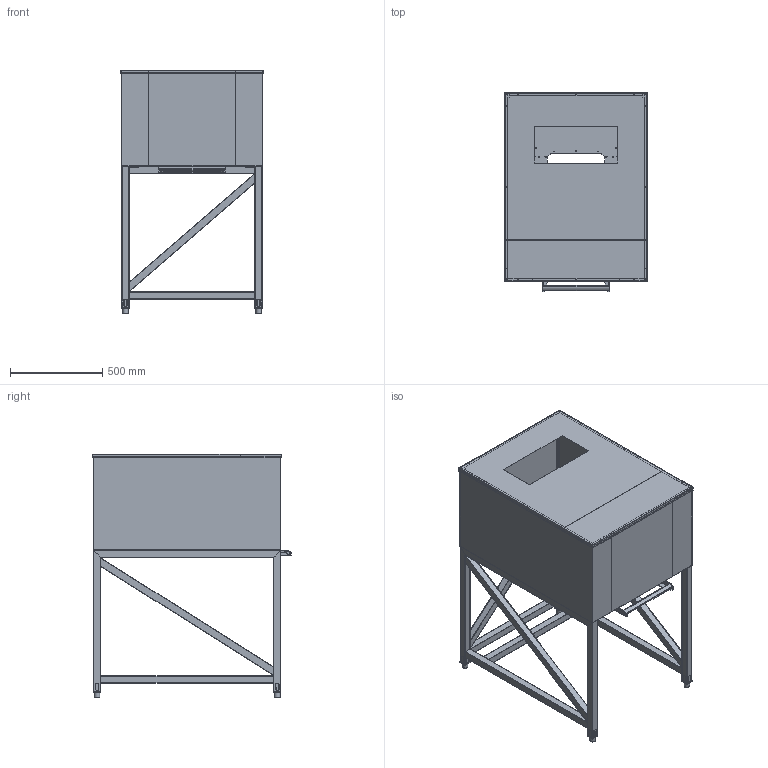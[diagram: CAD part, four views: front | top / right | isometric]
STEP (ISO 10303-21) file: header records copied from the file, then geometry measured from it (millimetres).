
FILE_DESCRIPTION(/* description */ ('Unknown'),/* implementation_level */ '2;1');
FILE_NAME(/* name */ 'SCS150',/* time_stamp */ '2018-04-24T10:45:41+02:00',/* author */ ('Unknown'),/* organization */ ('Unknown'),/* preprocessor_version */ 'ST-DEVELOPER v16.7',/* originating_system */ 'DEX',/* authorisation */ $);
FILE_SCHEMA (('CONFIG_CONTROL_DESIGN'));
Length unit declared in the file: millimetre
Products named in the file (32): SILO_SC1_Carro_sin_puerta; 42-92+SC1_Carro sin puerta_oa_0; 42-91+31155_oa_1; 42-30+31153_oa_2; 42-109+31149-R00; 42-178+31152-R00; 42-108+31151-R00; 42-104+31128_oa_3; 42-31+31127-R01; 42-108+31150-R00; 30138+pata_reg_inox_tubo_40x40; 42-145_R02; tubo 40x40x1.5_oa_4; 42-67+pletina2; tubo 40x40x1.5_oa_5; tubo 40x40x1.5_oa_6; tubo 40x40x1.5_oa_7; tubo 40x40x1.5_oa_8; tubo 40x40x1.5_oa_9; tubo 40x40x1.5_oa_10; tubo 40x40x1.5_oa_11; tubo 40x40x1.5_oa_12; tubo 40x40x1.5_oa_13; tubo 40x40x1.5_oa_14; tubo 40x40x1.5_oa_15; tubo 40x40x1.5_oa_16; tubo 40x40x1.5_oa_17; 42-152+31190; 42-41+Tajadora_oa_18; 42-56+8874_R02; 42-57+8853; 42-151+31320
Assembly tree (37 placements, depth 6):
  SILO_SC1_Carro_sin_puerta
    42-92+SC1_Carro sin puerta_oa_0
      42-91+31155_oa_1
        42-30+31153_oa_2
          42-109+31149-R00
          42-178+31152-R00
          42-108+31151-R00
          42-104+31128_oa_3
            42-31+31127-R01
          42-108+31150-R00
    30138+pata_reg_inox_tubo_40x40  x4
    42-145_R02
      tubo 40x40x1.5_oa_4
      42-67+pletina2  x4
      tubo 40x40x1.5_oa_5
      tubo 40x40x1.5_oa_6
      tubo 40x40x1.5_oa_7
      tubo 40x40x1.5_oa_8
      tubo 40x40x1.5_oa_9
      tubo 40x40x1.5_oa_10
      tubo 40x40x1.5_oa_11
      tubo 40x40x1.5_oa_12
      tubo 40x40x1.5_oa_13
      tubo 40x40x1.5_oa_14
      tubo 40x40x1.5_oa_15
      tubo 40x40x1.5_oa_16
      tubo 40x40x1.5_oa_17
    42-152+31190
    42-41+Tajadora_oa_18
      42-56+8874_R02
      42-57+8853
    42-151+31320
Bounding box: 770.2 x 1076.7 x 1319.6 mm (x, y, z)
Volume: 6123023.7 mm3; surface area: 11560650.6 mm2
Topology: 32 solids, 32 shells, 1627 faces, 4393 edges, 2778 vertices
Faces by surface type: plane 884, cylinder 594, cone 70, sphere 64, bspline 11, torus 4
Full cylindrical faces by diameter (mm): 2.7 x12, 3.5 x22, 4.2 x26, 5 x32, 12 x4, 22 x4, 26 x4, 30 x4
Entity records: 41192 total; most frequent: CARTESIAN_POINT 7187, DIRECTION 6733, ORIENTED_EDGE 6564, EDGE_CURVE 3282, LINE 2283, VECTOR 2283, AXIS2_PLACEMENT_3D 2225, VERTEX_POINT 2171
